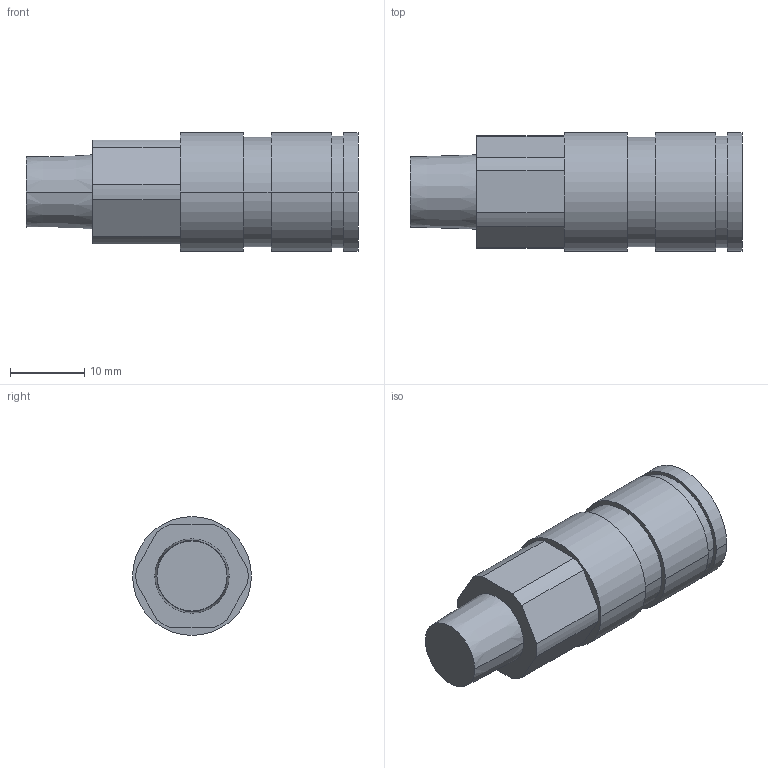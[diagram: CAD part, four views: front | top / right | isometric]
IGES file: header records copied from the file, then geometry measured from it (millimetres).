
Global section: file name: No Iges File Name specified; native system: Autodesk Inventor 2009; preprocessor: AutoDesk Inventor Iges Exporter R2009; author: y-shimohigashi; date: 20080701.161240; units: millimetre
Bounding box: 44.7 x 16 x 16 mm (x, y, z)
Volume: 6153.9 mm3; surface area: 3008.5 mm2
Topology: 1 solids, 1 shells, 35 faces, 78 edges, 52 vertices
Faces by surface type: cylinder 16, plane 15, cone 2, revolution 2
